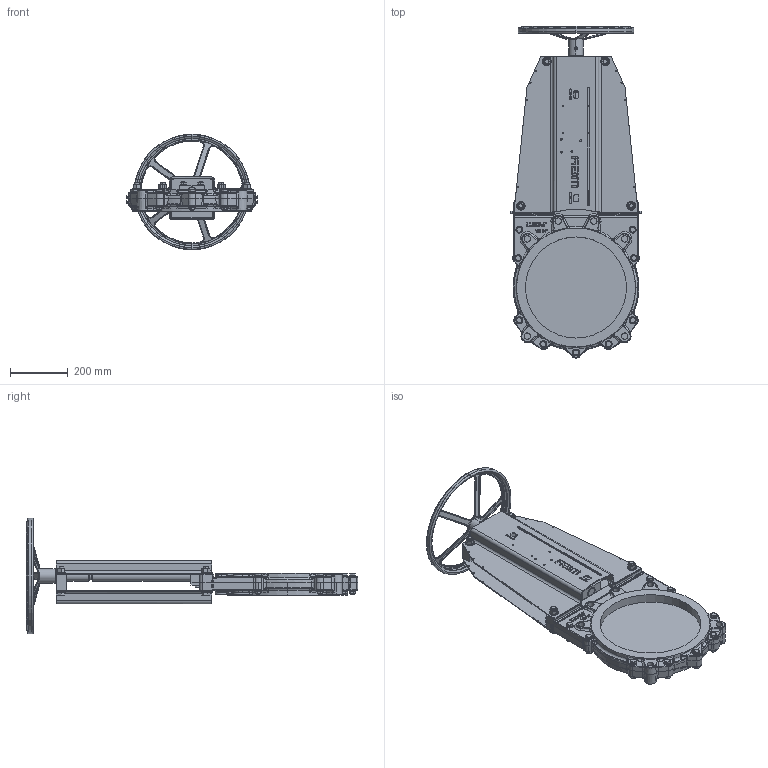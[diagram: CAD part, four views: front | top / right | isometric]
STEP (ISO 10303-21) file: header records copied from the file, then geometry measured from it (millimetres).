
FILE_DESCRIPTION (( 'STEP AP214' ), '1' );
FILE_NAME ('VSA DN 0350.STEP', '2015-09-23T10:57:34', ( 'admin' ), ( 'Hewlett-Packard Company' ), 'SwSTEP 2.0', 'SolidWorks 2013', '' );
FILE_SCHEMA (( 'AUTOMOTIVE_DESIGN' ));
Length unit declared in the file: millimetre
Products named in the file (1): VSA DN 0350
Bounding box: 452 x 1148.73 x 400 mm (x, y, z)
Volume: 11353900.5 mm3; surface area: 2078277.8 mm2
Topology: 68 solids, 69 shells, 3167 faces, 7555 edges, 4457 vertices
Faces by surface type: plane 1026, cylinder 868, bspline 516, cone 499, torus 238, sphere 20
Entity records: 150607 total; most frequent: CARTESIAN_POINT 45731, ORIENTED_EDGE 14838, DIRECTION 13938, EDGE_CURVE 7419, AXIS2_PLACEMENT_3D 5577, VERTEX_POINT 4457, EDGE_LOOP 3478, UNCERTAINTY_MEASURE_WITH_UNIT 3235
